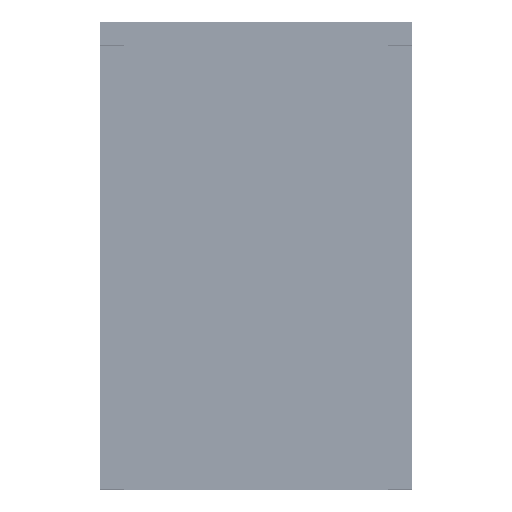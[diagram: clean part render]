
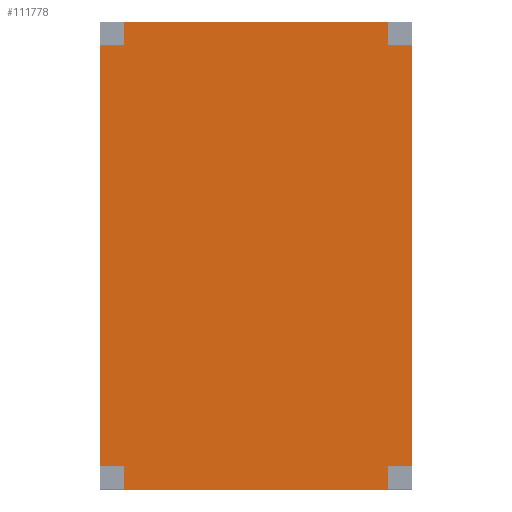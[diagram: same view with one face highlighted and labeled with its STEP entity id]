
A CAD part, top view. The second image highlights one B-rep face of the part: STEP entity #111778.
In plain terms, the highlighted planar face has unit normal (0, 0, 1) as drawn and (0, -1, 0) by its records, which use the part's own axes.
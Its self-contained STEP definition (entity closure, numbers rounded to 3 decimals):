
#11483=FACE_OUTER_BOUND('',#20162,.T.);
#20162=EDGE_LOOP('',(#80151,#80152,#80153,#80154,#80155,#80156,#80157,#80158,
#80159,#80160,#80161,#80162));
#36676=LINE('',#181679,#43943);
#36679=LINE('',#181685,#43946);
#36682=LINE('',#181691,#43949);
#36685=LINE('',#181697,#43952);
#36688=LINE('',#181703,#43955);
#36691=LINE('',#181709,#43958);
#36694=LINE('',#181715,#43961);
#36697=LINE('',#181721,#43964);
#36700=LINE('',#181727,#43967);
#36703=LINE('',#181733,#43970);
#36706=LINE('',#181739,#43973);
#36709=LINE('',#181743,#43976);
#43943=VECTOR('',#142303,10.);
#43946=VECTOR('',#142308,10.);
#43949=VECTOR('',#142313,10.);
#43952=VECTOR('',#142318,10.);
#43955=VECTOR('',#142323,10.);
#43958=VECTOR('',#142328,10.);
#43961=VECTOR('',#142333,10.);
#43964=VECTOR('',#142338,10.);
#43967=VECTOR('',#142343,10.);
#43970=VECTOR('',#142348,10.);
#43973=VECTOR('',#142353,10.);
#43976=VECTOR('',#142358,10.);
#51065=VERTEX_POINT('',#181676);
#51066=VERTEX_POINT('',#181678);
#51068=VERTEX_POINT('',#181684);
#51070=VERTEX_POINT('',#181690);
#51072=VERTEX_POINT('',#181696);
#51074=VERTEX_POINT('',#181702);
#51076=VERTEX_POINT('',#181708);
#51078=VERTEX_POINT('',#181714);
#51080=VERTEX_POINT('',#181720);
#51082=VERTEX_POINT('',#181726);
#51084=VERTEX_POINT('',#181732);
#51086=VERTEX_POINT('',#181738);
#62053=EDGE_CURVE('',#51066,#51065,#36676,.T.);
#62056=EDGE_CURVE('',#51068,#51066,#36679,.T.);
#62059=EDGE_CURVE('',#51070,#51068,#36682,.T.);
#62062=EDGE_CURVE('',#51072,#51070,#36685,.T.);
#62065=EDGE_CURVE('',#51074,#51072,#36688,.T.);
#62068=EDGE_CURVE('',#51076,#51074,#36691,.T.);
#62071=EDGE_CURVE('',#51078,#51076,#36694,.T.);
#62074=EDGE_CURVE('',#51080,#51078,#36697,.T.);
#62077=EDGE_CURVE('',#51082,#51080,#36700,.T.);
#62080=EDGE_CURVE('',#51084,#51082,#36703,.T.);
#62083=EDGE_CURVE('',#51086,#51084,#36706,.T.);
#62086=EDGE_CURVE('',#51065,#51086,#36709,.T.);
#80151=ORIENTED_EDGE('',*,*,#62086,.T.);
#80152=ORIENTED_EDGE('',*,*,#62083,.T.);
#80153=ORIENTED_EDGE('',*,*,#62080,.T.);
#80154=ORIENTED_EDGE('',*,*,#62077,.T.);
#80155=ORIENTED_EDGE('',*,*,#62074,.T.);
#80156=ORIENTED_EDGE('',*,*,#62071,.T.);
#80157=ORIENTED_EDGE('',*,*,#62068,.T.);
#80158=ORIENTED_EDGE('',*,*,#62065,.T.);
#80159=ORIENTED_EDGE('',*,*,#62062,.T.);
#80160=ORIENTED_EDGE('',*,*,#62059,.T.);
#80161=ORIENTED_EDGE('',*,*,#62056,.T.);
#80162=ORIENTED_EDGE('',*,*,#62053,.T.);
#106685=PLANE('',#123669);
#111778=ADVANCED_FACE('',(#11483),#106685,.T.);
#123669=AXIS2_PLACEMENT_3D('',#181744,#142359,#142360);
#142303=DIRECTION('',(1.,0.,0.));
#142308=DIRECTION('',(0.,0.,-1.));
#142313=DIRECTION('',(-1.,0.,0.));
#142318=DIRECTION('',(0.,0.,-1.));
#142323=DIRECTION('',(-1.,0.,0.));
#142328=DIRECTION('',(0.,0.,1.));
#142333=DIRECTION('',(-1.,0.,0.));
#142338=DIRECTION('',(0.,0.,1.));
#142343=DIRECTION('',(1.,0.,0.));
#142348=DIRECTION('',(0.,0.,1.));
#142353=DIRECTION('',(1.,0.,0.));
#142358=DIRECTION('',(0.,0.,-1.));
#142359=DIRECTION('center_axis',(0.,-1.,0.));
#142360=DIRECTION('ref_axis',(0.,0.,-1.));
#181676=CARTESIAN_POINT('',(-270.,-315.,-170.));
#181678=CARTESIAN_POINT('',(-300.,-315.,-170.));
#181679=CARTESIAN_POINT('',(-300.,-315.,-170.));
#181684=CARTESIAN_POINT('',(-300.,-315.,170.));
#181685=CARTESIAN_POINT('',(-300.,-315.,200.));
#181690=CARTESIAN_POINT('',(-270.,-315.,170.));
#181691=CARTESIAN_POINT('',(-270.,-315.,170.));
#181696=CARTESIAN_POINT('',(-270.,-315.,200.));
#181697=CARTESIAN_POINT('',(-270.,-315.,200.));
#181702=CARTESIAN_POINT('',(270.,-315.,200.));
#181703=CARTESIAN_POINT('',(300.,-315.,200.));
#181708=CARTESIAN_POINT('',(270.,-315.,170.));
#181709=CARTESIAN_POINT('',(270.,-315.,170.));
#181714=CARTESIAN_POINT('',(300.,-315.,170.));
#181715=CARTESIAN_POINT('',(300.,-315.,170.));
#181720=CARTESIAN_POINT('',(300.,-315.,-170.));
#181721=CARTESIAN_POINT('',(300.,-315.,-200.));
#181726=CARTESIAN_POINT('',(270.,-315.,-170.));
#181727=CARTESIAN_POINT('',(270.,-315.,-170.));
#181732=CARTESIAN_POINT('',(270.,-315.,-200.));
#181733=CARTESIAN_POINT('',(270.,-315.,-200.));
#181738=CARTESIAN_POINT('',(-270.,-315.,-200.));
#181739=CARTESIAN_POINT('',(-300.,-315.,-200.));
#181743=CARTESIAN_POINT('',(-270.,-315.,-170.));
#181744=CARTESIAN_POINT('Origin',(0.,-315.,0.));
